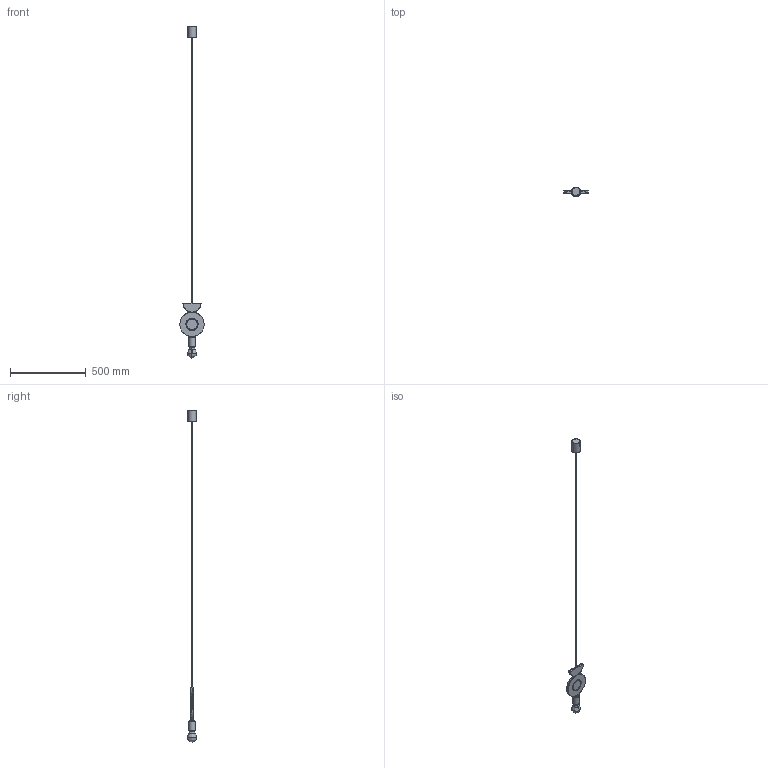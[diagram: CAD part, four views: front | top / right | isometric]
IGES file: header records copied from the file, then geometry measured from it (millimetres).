
Start section: SolidWorks IGES file using analytic representation for surfaces
Global section: file name: Z:\PRODUKT\DESIGN\DROPS WOOD\DROPS WOOD PM\DROPS WOOD D PM\DROPS WOOD D PM.IGS; native system: SolidWorks 2023; preprocessor: SolidWorks 2023; author: anna.bielnik; date: 231127.112053; units: millimetre
Bounding box: 160 x 60.5 x 2185.15 mm (x, y, z)
Surface area: 268011.8 mm2 (no closed solid volume)
Topology: 0 solids, 0 shells, 137 faces, 3384 edges, 3382 vertices
Faces by surface type: bspline 75, revolution 62
